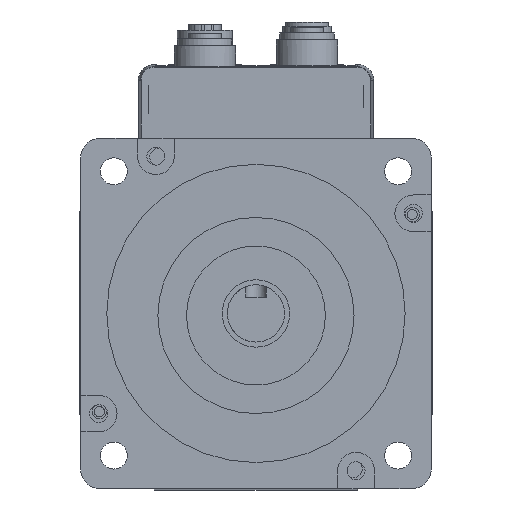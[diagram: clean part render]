
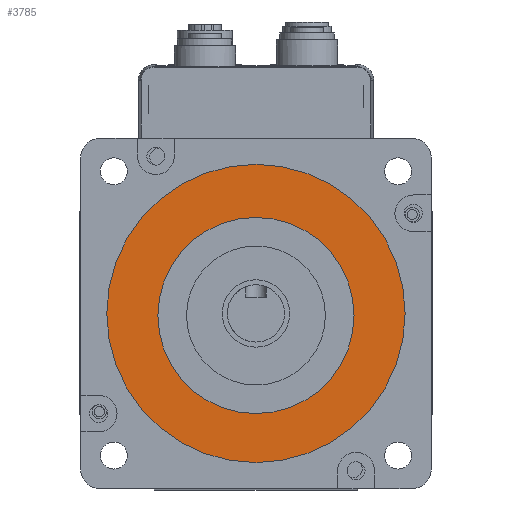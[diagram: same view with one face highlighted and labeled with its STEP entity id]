
A CAD part, front view. The second image highlights one B-rep face of the part: STEP entity #3785.
In plain terms, the highlighted planar face has unit normal (0, -1, 0).
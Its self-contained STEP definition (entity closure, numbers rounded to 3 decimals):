
#3785 = ADVANCED_FACE( '', ( #7837, #7838 ), #7839, .F. );
#7837 = FACE_BOUND( '', #12878, .T. );
#7838 = FACE_OUTER_BOUND( '', #12879, .T. );
#7839 = PLANE( '', #12880 );
#12878 = EDGE_LOOP( '', ( #23427 ) );
#12879 = EDGE_LOOP( '', ( #23428 ) );
#12880 = AXIS2_PLACEMENT_3D( '', #23429, #23430, #23431 );
#23427 = ORIENTED_EDGE( '', *, *, #25777, .T. );
#23428 = ORIENTED_EDGE( '', *, *, #27269, .F. );
#23429 = CARTESIAN_POINT( '', ( 46.966, -32., 64.064 ) );
#23430 = DIRECTION( '', ( 0., 1., 0. ) );
#23431 = DIRECTION( '', ( 0., 0., 1. ) );
#25777 = EDGE_CURVE( '', #30930, #30930, #30931, .T. );
#27269 = EDGE_CURVE( '', #33191, #33191, #33192, .T. );
#30930 = VERTEX_POINT( '', #37855 );
#30931 = CIRCLE( '', #37856, 24. );
#33191 = VERTEX_POINT( '', #41219 );
#33192 = CIRCLE( '', #41220, 36.5 );
#37855 = CARTESIAN_POINT( '', ( 70.966, -32., 63.564 ) );
#37856 = AXIS2_PLACEMENT_3D( '', #45830, #45831, #45832 );
#41219 = CARTESIAN_POINT( '', ( 83.466, -32., 64.064 ) );
#41220 = AXIS2_PLACEMENT_3D( '', #47682, #47683, #47684 );
#45830 = CARTESIAN_POINT( '', ( 46.966, -32., 63.564 ) );
#45831 = DIRECTION( '', ( 0., 1., 0. ) );
#45832 = DIRECTION( '', ( 1., 0., 0. ) );
#47682 = CARTESIAN_POINT( '', ( 46.966, -32., 64.064 ) );
#47683 = DIRECTION( '', ( 0., 1., 0. ) );
#47684 = DIRECTION( '', ( 1., 0., 0. ) );
